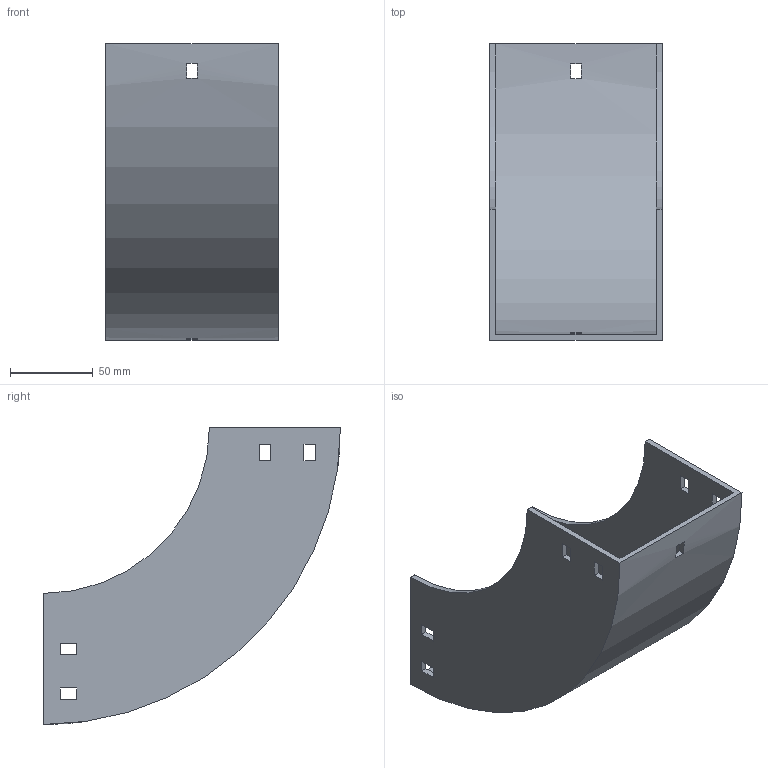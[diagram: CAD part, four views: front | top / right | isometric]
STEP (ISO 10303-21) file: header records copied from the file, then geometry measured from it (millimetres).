
FILE_DESCRIPTION (( 'STEP AP214' ), '1' );
FILE_NAME ('30B1C100.step', '2025-02-21T09:50:43', ( '' ), ( '' ), 'SwSTEP 2.0', 'SolidWorks 2023', '' );
FILE_SCHEMA (( 'AUTOMOTIVE_DESIGN' ));
Length unit declared in the file: millimetre
Products named in the file (1): 30B1C100
Bounding box: 104 x 179 x 179 mm (x, y, z)
Volume: 213330.2 mm3; surface area: 125976.8 mm2
Topology: 1 solids, 1 shells, 50 faces, 144 edges, 96 vertices
Faces by surface type: plane 46, cylinder 4
Entity records: 1687 total; most frequent: CARTESIAN_POINT 291, ORIENTED_EDGE 288, DIRECTION 262, EDGE_CURVE 144, VECTOR 128, LINE 128, VERTEX_POINT 96, EDGE_LOOP 70
